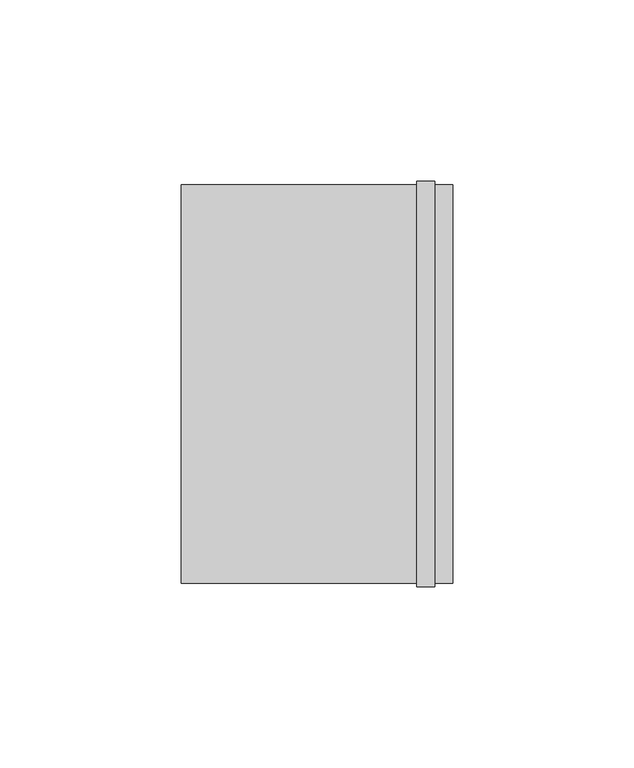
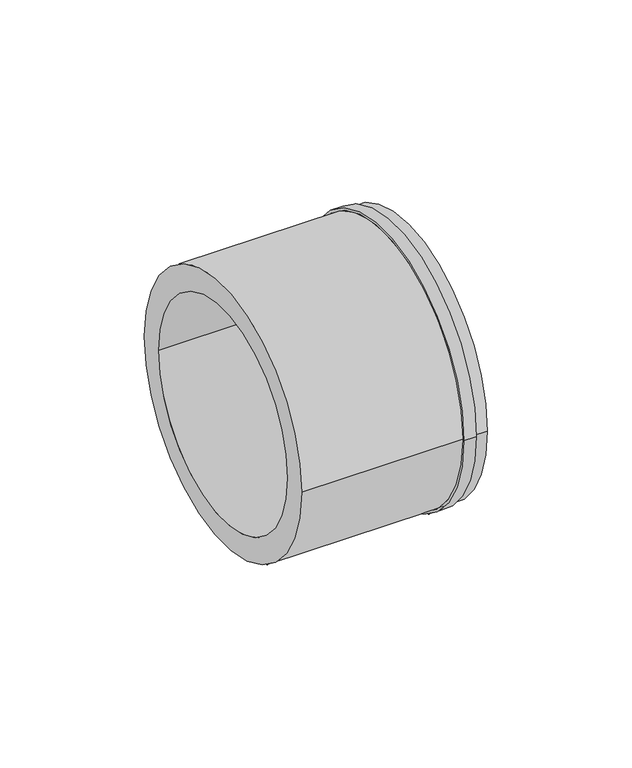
"""IFC4 building model written with IfcOpenShell, lengths in millimetres: pipe fitting geometry, NLRS_52_PIF_UN_PE overgangsmof_geb : DN90-100 / ø90-110."""

from ifc_helpers import new_model, si_unit, frame, origin, place, context, project, spatial, polyline, circle_curve, source, transform, mapped, element, save
from ifc_brep_helpers import plane_surface, cylinder_surface, revolved_surface, advanced_brep


def pipe_fitting_5ecb3781(model_context):
    return source(origin(), model_context, "Body", "AdvancedBrep", [
        advanced_brep(
        [(32.5, -56.0, 0.0), (32.5, 56.0, 0.0), (32.5, 55.0, 0.0), (32.5, -55.0, 0.0), (27.5, -56.0, 0.0), (27.5, 56.0, 0.0), (27.5, -55.0, 0.0), (27.5, 55.0, 0.0), (37.5, -55.0, 0.0), (37.5, 55.0, 0.0), (37.5, -45.0, 0.0), (37.5, 45.0, 0.0), (-37.5, -55.0, 0.0), (-37.5, 55.0, 0.0), (-37.5, -45.0, 0.0), (-37.5, 45.0, 0.0)],
        [
            (0, 1, circle_curve(frame((32.5, 0.0, 0.0), z_axis=(1.0, 0.0, 0.0), x_axis=(0.0, 1.0, 0.0)), 56.0)),
            (1, 0, circle_curve(frame((32.5, 0.0, 0.0), z_axis=(1.0, 0.0, 0.0), x_axis=(0.0, 1.0, 0.0)), 56.0)),
            (2, 3, circle_curve(frame((32.5, 0.0, 0.0), z_axis=(-1.0, 0.0, 0.0), x_axis=(0.0, 1.0, 0.0)), 55.0)),
            (3, 2, circle_curve(frame((32.5, 0.0, 0.0), z_axis=(-1.0, 0.0, 0.0), x_axis=(0.0, 1.0, 0.0)), 55.0)),
            (4, 5, circle_curve(frame((27.5, 0.0, 0.0), z_axis=(-1.0, 0.0, 0.0), x_axis=(0.0, 1.0, 0.0)), 56.0)),
            (5, 4, circle_curve(frame((27.5, 0.0, 0.0), z_axis=(-1.0, 0.0, 0.0), x_axis=(0.0, 1.0, 0.0)), 56.0)),
            (6, 7, circle_curve(frame((27.5, 0.0, 0.0), z_axis=(1.0, 0.0, 0.0), x_axis=(0.0, 1.0, 0.0)), 55.0)),
            (7, 6, circle_curve(frame((27.5, 0.0, 0.0), z_axis=(1.0, 0.0, 0.0), x_axis=(0.0, 1.0, 0.0)), 55.0)),
            (0, 4),
            (5, 1),
            (8, 9, circle_curve(frame((37.5, 0.0, 0.0), z_axis=(1.0, 0.0, 0.0), x_axis=(0.0, 1.0, 0.0)), 55.0)),
            (9, 8, circle_curve(frame((37.5, 0.0, 0.0), z_axis=(1.0, 0.0, 0.0), x_axis=(0.0, 1.0, 0.0)), 55.0)),
            (10, 11, circle_curve(frame((37.5, 0.0, 0.0), z_axis=(-1.0, 0.0, 0.0), x_axis=(0.0, 1.0, 0.0)), 45.0)),
            (11, 10, circle_curve(frame((37.5, 0.0, 0.0), z_axis=(-1.0, 0.0, 0.0), x_axis=(0.0, 1.0, 0.0)), 45.0)),
            (12, 13, circle_curve(frame((-37.5, 0.0, 0.0), z_axis=(-1.0, 0.0, 0.0), x_axis=(0.0, 1.0, 0.0)), 55.0)),
            (13, 12, circle_curve(frame((-37.5, 0.0, 0.0), z_axis=(-1.0, 0.0, 0.0), x_axis=(0.0, 1.0, 0.0)), 55.0)),
            (14, 15, circle_curve(frame((-37.5, 0.0, 0.0), z_axis=(1.0, 0.0, 0.0), x_axis=(0.0, 1.0, 0.0)), 45.0)),
            (15, 14, circle_curve(frame((-37.5, 0.0, 0.0), z_axis=(1.0, 0.0, 0.0), x_axis=(0.0, 1.0, 0.0)), 45.0)),
            (8, 3),
            (2, 9),
            (13, 7),
            (6, 12),
            (10, 14),
            (15, 11),
        ],
        [
            plane_surface(frame((32.5, 55.0, 0.0), z_axis=(1.0, 0.0, 0.0), x_axis=(0.0, 0.0, -1.0))),
            plane_surface(frame((27.5, 55.0, 0.0), z_axis=(-1.0, 0.0, 0.0), x_axis=(0.0, 0.0, 1.0))),
            cylinder_surface(frame((0.0, 0.0, 0.0), z_axis=(1.0, 0.0, 0.0), x_axis=(0.0, 1.0, 0.0)), 56.0),
            plane_surface(frame((37.5, 55.0, 0.0), z_axis=(1.0, 0.0, 0.0), x_axis=(0.0, 0.0, 1.0))),
            plane_surface(frame((-37.5, 55.0, 0.0), z_axis=(-1.0, 0.0, 0.0), x_axis=(0.0, 0.0, -1.0))),
            cylinder_surface(frame((-37.5, 0.0, 0.0), z_axis=(1.0, 0.0, 0.0), x_axis=(0.0, 1.0, 0.0)), 55.0),
            revolved_surface(polyline([(-37.5, 45.0, 0.0), (37.5, 45.0, 0.0)]), (0.0, 0.0, 0.0), (-1.0, 0.0, 0.0)),
        ],
        [
            (0, [[1, 2], [3, 4]]),
            (1, [[5, 6], [7, 8]]),
            (2, [[-1, 9, -6, 10]]),
            (2, [[-2, -10, -5, -9]]),
            (3, [[11, 12], [13, 14]]),
            (4, [[15, 16], [17, 18]]),
            (5, [[-11, 19, -3, 20]]),
            (5, [[-16, 21, -7, 22]]),
            (5, [[-12, -20, -4, -19]]),
            (5, [[-15, -22, -8, -21]]),
            (6, [[-13, 23, -18, 24]]),
            (6, [[-14, -24, -17, -23]]),
        ],
    ),
    ])


if __name__ == "__main__":
    model = new_model("IFC4")
    model_context = context("Model", 3, world=origin())
    ifc_project = project(units=[si_unit("LENGTHUNIT", "METRE", prefix="MILLI")], contexts=[model_context])
    site = spatial("IfcSite", under=ifc_project)
    building = spatial("IfcBuilding", under=site)
    placement = place(None, origin())
    pipe_fitting_shape = pipe_fitting_5ecb3781(model_context)
    element("IfcPipeFitting", 1, ObjectType="NLRS_52_PIF_UN_PE overgangsmof_geb : DN90-100 / ø90-110", at=placement, inside=building, context=model_context, shape_type="MappedRepresentation", body=[
        mapped(pipe_fitting_shape, transform((0.0, 0.0, 0.0), x_axis=(1.0, 0.0, 0.0), y_axis=(0.0, 1.0, 0.0), z_axis=(0.0, 0.0, 1.0))),
    ])
    save(model, "model.ifc")
